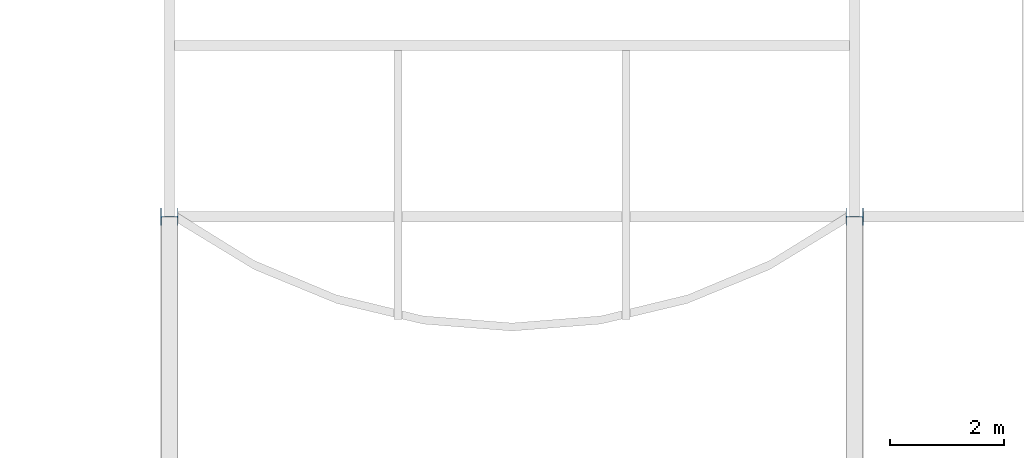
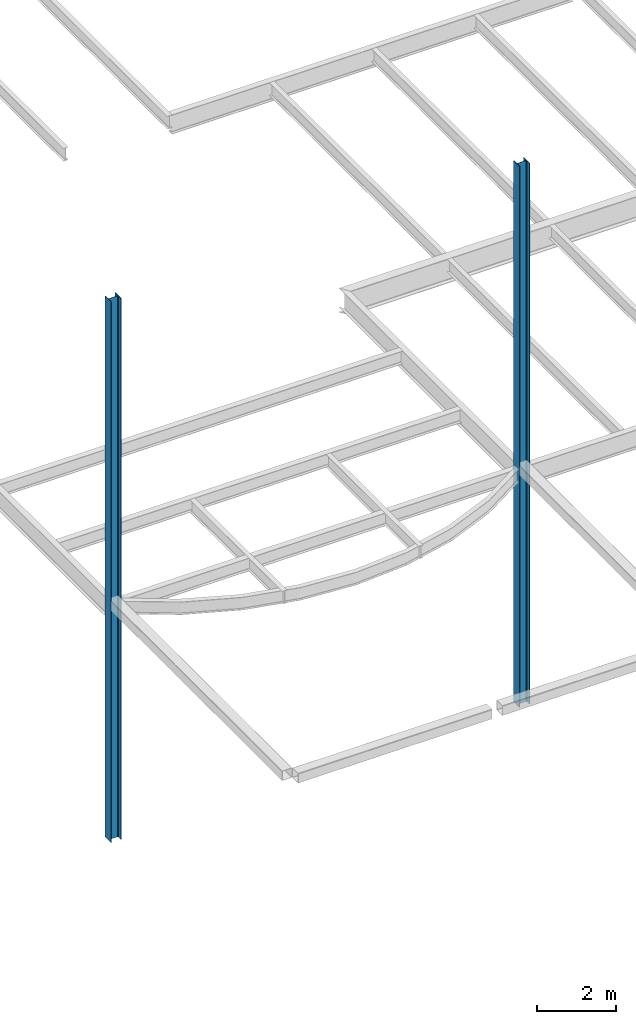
# One storey, part 1 of 21: 2 columns.
"""IFC2X3 building model written with IfcOpenShell, lengths in millimetres."""

from ifc_helpers import new_model, si_unit, origin, place, context, project, spatial, faceted_brep, material, element, save


model = new_model("IFC2X3")

# Units and contexts
context_of_model = context(None, 3, precision=1e-05, world=origin())
ifc_project = project(units=[si_unit("LENGTHUNIT", "METRE", prefix="MILLI")], contexts=[context_of_model])

# Building, storey
building = spatial("IfcBuilding", under=ifc_project, Name="Building", CompositionType="ELEMENT")
storey = spatial("IfcBuildingStorey", under=building, Name="FL6-FRM", CompositionType="ELEMENT")

# Columns
ifc_material_1 = material(Name="A992")
column_1_placement = place(None, origin())
element("IfcColumn", 1, at=column_1_placement, inside=storey, material=ifc_material_1, Name="Column652", context=context_of_model, shape_type="Brep", body=[
    faceted_brep([(12154.0, 8847.5, 15000.0), (12154.0, 9152.5, 15000.0), (12154.0, 9152.5, 31800.0), (12154.0, 8847.5, 31800.0), (12138.6, 9152.5, 15000.0), (12138.6, 9152.5, 31800.0), (12138.6, 9020.15, 15000.0), (12138.6, 9020.15, 31800.0), (12138.1, 9016.22, 15000.0), (12138.1, 9016.22, 31800.0), (12136.6, 9012.55, 15000.0), (12136.6, 9012.55, 31800.0), (12134.1, 9009.4, 15000.0), (12134.1, 9009.4, 31800.0), (12131.0, 9006.99, 15000.0), (12131.0, 9006.99, 31800.0), (12127.3, 9005.47, 15000.0), (12127.3, 9005.47, 31800.0), (12123.4, 9004.95, 15000.0), (12123.4, 9004.95, 31800.0), (11876.6, 9004.95, 15000.0), (11876.6, 9004.95, 31800.0), (11872.7, 9005.47, 15000.0), (11872.7, 9005.47, 31800.0), (11869.0, 9006.99, 15000.0), (11869.0, 9006.99, 31800.0), (11865.9, 9009.4, 15000.0), (11865.9, 9009.4, 31800.0), (11863.4, 9012.55, 15000.0), (11863.4, 9012.55, 31800.0), (11861.9, 9016.22, 15000.0), (11861.9, 9016.22, 31800.0), (11861.4, 9020.15, 15000.0), (11861.4, 9020.15, 31800.0), (11861.4, 9152.5, 15000.0), (11861.4, 9152.5, 31800.0), (11846.0, 9152.5, 15000.0), (11846.0, 9152.5, 31800.0), (11846.0, 8847.5, 15000.0), (11846.0, 8847.5, 31800.0), (11861.4, 8847.5, 15000.0), (11861.4, 8847.5, 31800.0), (11861.4, 8979.85, 15000.0), (11861.4, 8979.85, 31800.0), (11861.9, 8983.78, 15000.0), (11861.9, 8983.78, 31800.0), (11863.4, 8987.45, 15000.0), (11863.4, 8987.45, 31800.0), (11865.9, 8990.6, 15000.0), (11865.9, 8990.6, 31800.0), (11869.0, 8993.01, 15000.0), (11869.0, 8993.01, 31800.0), (11872.7, 8994.53, 15000.0), (11872.7, 8994.53, 31800.0), (11876.6, 8995.05, 15000.0), (11876.6, 8995.05, 31800.0), (12123.4, 8995.05, 15000.0), (12123.4, 8995.05, 31800.0), (12127.3, 8994.53, 15000.0), (12127.3, 8994.53, 31800.0), (12131.0, 8993.01, 15000.0), (12131.0, 8993.01, 31800.0), (12134.1, 8990.6, 15000.0), (12134.1, 8990.6, 31800.0), (12136.6, 8987.45, 15000.0), (12136.6, 8987.45, 31800.0), (12138.1, 8983.78, 15000.0), (12138.1, 8983.78, 31800.0), (12138.6, 8979.85, 15000.0), (12138.6, 8979.85, 31800.0), (12138.6, 8847.5, 15000.0), (12138.6, 8847.5, 31800.0)], [[[0, 1, 2, 3]], [[1, 4, 5, 2]], [[4, 6, 7, 5]], [[6, 8, 9, 7]], [[8, 10, 11, 9]], [[10, 12, 13, 11]], [[12, 14, 15, 13]], [[14, 16, 17, 15]], [[16, 18, 19, 17]], [[18, 20, 21, 19]], [[20, 22, 23, 21]], [[22, 24, 25, 23]], [[24, 26, 27, 25]], [[26, 28, 29, 27]], [[28, 30, 31, 29]], [[30, 32, 33, 31]], [[32, 34, 35, 33]], [[34, 36, 37, 35]], [[36, 38, 39, 37]], [[38, 40, 41, 39]], [[40, 42, 43, 41]], [[42, 44, 45, 43]], [[44, 46, 47, 45]], [[46, 48, 49, 47]], [[48, 50, 51, 49]], [[50, 52, 53, 51]], [[52, 54, 55, 53]], [[54, 56, 57, 55]], [[56, 58, 59, 57]], [[58, 60, 61, 59]], [[60, 62, 63, 61]], [[62, 64, 65, 63]], [[64, 66, 67, 65]], [[66, 68, 69, 67]], [[68, 70, 71, 69]], [[70, 0, 3, 71]], [[0, 70, 68, 66, 64, 62, 60, 58, 56, 54, 52, 50, 48, 46, 44, 42, 40, 38, 36, 34, 32, 30, 28, 26, 24, 22, 20, 18, 16, 14, 12, 10, 8, 6, 4, 1]], [[3, 2, 5, 7, 9, 11, 13, 15, 17, 19, 21, 23, 25, 27, 29, 31, 33, 35, 37, 39, 41, 43, 45, 47, 49, 51, 53, 55, 57, 59, 61, 63, 65, 67, 69, 71]]]),
])
ifc_material_2 = material(Name="A992")
column_2_placement = place(None, origin())
element("IfcColumn", 2, at=column_2_placement, inside=storey, material=ifc_material_2, Name="Column653", context=context_of_model, shape_type="Brep", body=[
    faceted_brep([(154.0, 8847.5, 15000.0), (154.0, 9152.5, 15000.0), (154.0, 9152.5, 31800.0), (154.0, 8847.5, 31800.0), (138.6, 9152.5, 15000.0), (138.6, 9152.5, 31800.0), (138.6, 9020.15, 15000.0), (138.6, 9020.15, 31800.0), (138.082, 9016.22, 15000.0), (138.082, 9016.22, 31800.0), (136.564, 9012.55, 15000.0), (136.564, 9012.55, 31800.0), (134.148, 9009.4, 15000.0), (134.148, 9009.4, 31800.0), (131.0, 9006.99, 15000.0), (131.0, 9006.99, 31800.0), (127.334, 9005.47, 15000.0), (127.334, 9005.47, 31800.0), (123.4, 9004.95, 15000.0), (123.4, 9004.95, 31800.0), (-123.4, 9004.95, 15000.0), (-123.4, 9004.95, 31800.0), (-127.334, 9005.47, 15000.0), (-127.334, 9005.47, 31800.0), (-131.0, 9006.99, 15000.0), (-131.0, 9006.99, 31800.0), (-134.148, 9009.4, 15000.0), (-134.148, 9009.4, 31800.0), (-136.564, 9012.55, 15000.0), (-136.564, 9012.55, 31800.0), (-138.082, 9016.22, 15000.0), (-138.082, 9016.22, 31800.0), (-138.6, 9020.15, 15000.0), (-138.6, 9020.15, 31800.0), (-138.6, 9152.5, 15000.0), (-138.6, 9152.5, 31800.0), (-154.0, 9152.5, 15000.0), (-154.0, 9152.5, 31800.0), (-154.0, 8847.5, 15000.0), (-154.0, 8847.5, 31800.0), (-138.6, 8847.5, 15000.0), (-138.6, 8847.5, 31800.0), (-138.6, 8979.85, 15000.0), (-138.6, 8979.85, 31800.0), (-138.082, 8983.78, 15000.0), (-138.082, 8983.78, 31800.0), (-136.564, 8987.45, 15000.0), (-136.564, 8987.45, 31800.0), (-134.148, 8990.6, 15000.0), (-134.148, 8990.6, 31800.0), (-131.0, 8993.01, 15000.0), (-131.0, 8993.01, 31800.0), (-127.334, 8994.53, 15000.0), (-127.334, 8994.53, 31800.0), (-123.4, 8995.05, 15000.0), (-123.4, 8995.05, 31800.0), (123.4, 8995.05, 15000.0), (123.4, 8995.05, 31800.0), (127.334, 8994.53, 15000.0), (127.334, 8994.53, 31800.0), (131.0, 8993.01, 15000.0), (131.0, 8993.01, 31800.0), (134.148, 8990.6, 15000.0), (134.148, 8990.6, 31800.0), (136.564, 8987.45, 15000.0), (136.564, 8987.45, 31800.0), (138.082, 8983.78, 15000.0), (138.082, 8983.78, 31800.0), (138.6, 8979.85, 15000.0), (138.6, 8979.85, 31800.0), (138.6, 8847.5, 15000.0), (138.6, 8847.5, 31800.0)], [[[0, 1, 2, 3]], [[1, 4, 5, 2]], [[4, 6, 7, 5]], [[6, 8, 9, 7]], [[8, 10, 11, 9]], [[10, 12, 13, 11]], [[12, 14, 15, 13]], [[14, 16, 17, 15]], [[16, 18, 19, 17]], [[18, 20, 21, 19]], [[20, 22, 23, 21]], [[22, 24, 25, 23]], [[24, 26, 27, 25]], [[26, 28, 29, 27]], [[28, 30, 31, 29]], [[30, 32, 33, 31]], [[32, 34, 35, 33]], [[34, 36, 37, 35]], [[36, 38, 39, 37]], [[38, 40, 41, 39]], [[40, 42, 43, 41]], [[42, 44, 45, 43]], [[44, 46, 47, 45]], [[46, 48, 49, 47]], [[48, 50, 51, 49]], [[50, 52, 53, 51]], [[52, 54, 55, 53]], [[54, 56, 57, 55]], [[56, 58, 59, 57]], [[58, 60, 61, 59]], [[60, 62, 63, 61]], [[62, 64, 65, 63]], [[64, 66, 67, 65]], [[66, 68, 69, 67]], [[68, 70, 71, 69]], [[70, 0, 3, 71]], [[0, 70, 68, 66, 64, 62, 60, 58, 56, 54, 52, 50, 48, 46, 44, 42, 40, 38, 36, 34, 32, 30, 28, 26, 24, 22, 20, 18, 16, 14, 12, 10, 8, 6, 4, 1]], [[3, 2, 5, 7, 9, 11, 13, 15, 17, 19, 21, 23, 25, 27, 29, 31, 33, 35, 37, 39, 41, 43, 45, 47, 49, 51, 53, 55, 57, 59, 61, 63, 65, 67, 69, 71]]]),
])

save(model, "model.ifc")
